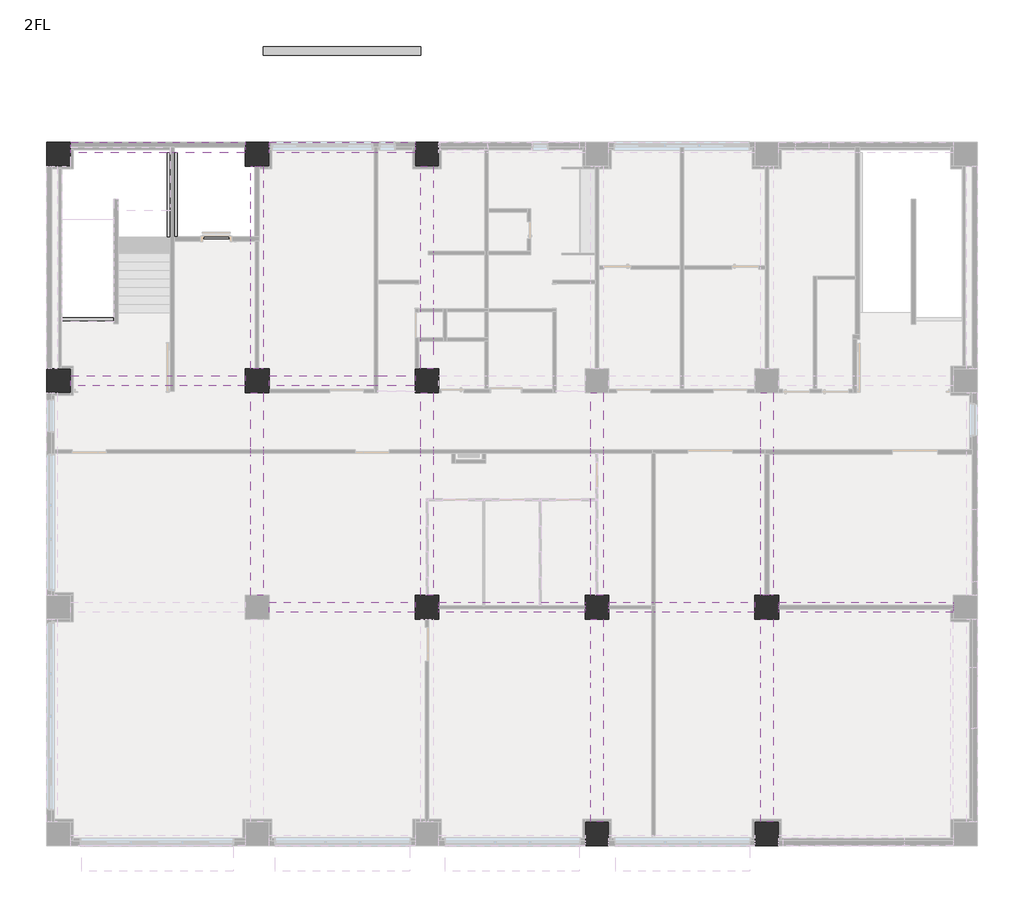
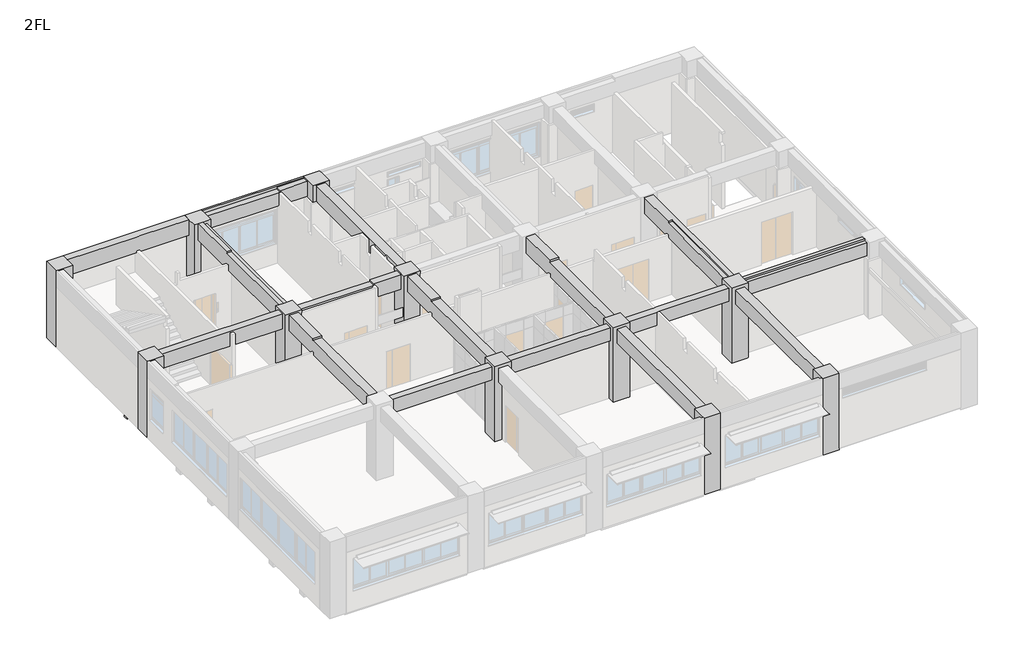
# One storey, part 6 of 7: 36 beams, 11 columns.
"""IFC4 building model written with IfcOpenShell, lengths in millimetres."""

from ifc_helpers import new_model, si_unit, frame, origin, place, context, project, spatial, polyline, outline, extrude, faceted_brep, element, save

model = new_model("IFC4")

# Units and contexts
model_context = context("Model", 3, world=origin())
ifc_project = project(units=[si_unit("LENGTHUNIT", "METRE", prefix="MILLI")], contexts=[model_context])

# Site, building, storey
site = spatial("IfcSite", under=ifc_project)
building = spatial("IfcBuilding", under=site)
storey = spatial("IfcBuildingStorey", under=building, Name="2FL", Elevation=4100.0)

# Beams
placement = place(None, origin())
element("IfcBeam", 1, ObjectType="営_RC梁 : 2-RG2 350*850", at=placement, inside=storey, context=model_context, shape_type="SweptSolid", body=[
    extrude(outline(polyline([(7420.0, 7825.0), (7420.0, 8175.0), (12580.0, 8175.0), (12580.0, 7825.0), (7420.0, 7825.0)])), frame((0.0, 0.0, 7250.0), z_axis=(0.0, 0.0, 1.0), x_axis=(1.0, 0.0, 0.0)), (0.0, 0.0, 1.0), 700.0),
])
element("IfcBeam", 2, ObjectType="営_RC梁 : 2-RG2 350*850", at=placement, inside=storey, context=model_context, shape_type="Brep", body=[
    faceted_brep([(13420.0, 7825.0, 7250.0), (18580.0, 7825.0, 7250.0), (18580.0, 7825.0, 7950.0), (13420.0, 7825.0, 7950.0), (13420.0, 7940.0, 7250.0), (13420.0, 8060.0, 7250.0), (13420.0, 8175.0, 7250.0), (18580.0, 8175.0, 7250.0), (18580.0, 8060.0, 7250.0), (18580.0, 7940.0, 7250.0), (13420.0, 8175.0, 7950.0), (18580.0, 8175.0, 7950.0)], [[[0, 1, 2, 3]], [[0, 4, 5, 6, 7, 8, 9, 1]], [[7, 6, 10, 11]], [[6, 5, 4, 0, 3, 10]], [[1, 9, 8, 7, 11, 2]], [[3, 2, 11, 10]]]),
])
element("IfcBeam", 3, ObjectType="営_RC梁 : 2-RG2 350*850", at=placement, inside=storey, context=model_context, shape_type="Brep", body=[
    faceted_brep([(19420.0, 7825.0, 7250.0), (20940.0, 7825.0, 7250.0), (21060.0, 7825.0, 7250.0), (24580.0, 7825.0, 7250.0), (24580.0, 7825.0, 7950.0), (21060.0, 7825.0, 7950.0), (20940.0, 7825.0, 7950.0), (19420.0, 7825.0, 7950.0), (19420.0, 7940.0, 7250.0), (19420.0, 8060.0, 7250.0), (19420.0, 8175.0, 7250.0), (20940.0, 8175.0, 7250.0), (21060.0, 8175.0, 7250.0), (24580.0, 8175.0, 7250.0), (19420.0, 8175.0, 7950.0), (20940.0, 8175.0, 7950.0), (21060.0, 8175.0, 7950.0), (24580.0, 8175.0, 7950.0)], [[[0, 1, 2, 3, 4, 5, 6, 7]], [[0, 8, 9, 10, 11, 12, 13, 3, 2, 1]], [[13, 12, 11, 10, 14, 15, 16, 17]], [[10, 9, 8, 0, 7, 14]], [[3, 13, 17, 4]], [[7, 6, 5, 4, 17, 16, 15, 14]]]),
])
element("IfcBeam", 4, ObjectType="営_RC梁 : 2-RG2 350*850", at=placement, inside=storey, context=model_context, shape_type="Brep", body=[
    faceted_brep([(25420.0, 7825.0, 7250.0), (31580.0, 7825.0, 7250.0), (31580.0, 7825.0, 7950.0), (25420.0, 7825.0, 7950.0), (25420.0, 7925.0, 7250.0), (25420.0, 8075.0, 7250.0), (25420.0, 8175.0, 7250.0), (31580.0, 8175.0, 7250.0), (31580.0, 8075.0, 7250.0), (31580.0, 7925.0, 7250.0), (25420.0, 8175.0, 8040.0), (31580.0, 8175.0, 8040.0), (25420.0, 8000.0, 7950.0), (25420.0, 8000.0, 8040.0), (31580.0, 8000.0, 8040.0), (31580.0, 8000.0, 7950.0)], [[[0, 1, 2, 3]], [[0, 4, 5, 6, 7, 8, 9, 1]], [[7, 6, 10, 11]], [[6, 5, 4, 0, 3, 12, 13, 10]], [[1, 9, 8, 7, 11, 14, 15, 2]], [[15, 12, 3, 2]], [[12, 15, 14, 13]], [[11, 10, 13, 14]]]),
])
element("IfcBeam", 5, ObjectType="営_RC梁 : 2-RG2 350*850", at=placement, inside=storey, context=model_context, shape_type="Brep", body=[
    faceted_brep([(420.0, 15825.0, 7250.0), (6580.0, 15825.0, 7250.0), (6580.0, 15825.0, 8040.0), (420.0, 15825.0, 8040.0), (6580.0, 16175.0, 7250.0), (420.0, 16175.0, 7250.0), (420.0, 16175.0, 8040.0), (3825.0, 16175.0, 8040.0), (4175.0, 16175.0, 8040.0), (6580.0, 16175.0, 8040.0)], [[[0, 1, 2, 3]], [[4, 1, 0, 5]], [[4, 5, 6, 7, 8, 9]], [[1, 4, 9, 2]], [[5, 0, 3, 6]], [[3, 2, 9, 8, 7, 6]]]),
])
element("IfcBeam", 6, ObjectType="営_RC梁 : 2-RG2 350*850", at=placement, inside=storey, context=model_context, shape_type="Brep", body=[
    faceted_brep([(7420.0, 15825.0, 7250.0), (11140.0, 15825.0, 7250.0), (11260.0, 15825.0, 7250.0), (12580.0, 15825.0, 7250.0), (12580.0, 15825.0, 8040.0), (11200.0, 15825.0, 8040.0), (11200.0, 15825.0, 7950.0), (11140.0, 15825.0, 7950.0), (7420.0, 15825.0, 7950.0), (7420.0, 16175.0, 7250.0), (11140.0, 16175.0, 7250.0), (11260.0, 16175.0, 7250.0), (12580.0, 16175.0, 7250.0), (7420.0, 16175.0, 7950.0), (11140.0, 16175.0, 7950.0), (11200.0, 16175.0, 7950.0), (11200.0, 16175.0, 8040.0), (12580.0, 16175.0, 8040.0)], [[[0, 1, 2, 3, 4, 5, 6, 7, 8]], [[0, 9, 10, 11, 12, 3, 2, 1]], [[12, 11, 10, 9, 13, 14, 15, 16, 17]], [[9, 0, 8, 13]], [[3, 12, 17, 4]], [[5, 4, 17, 16]], [[6, 15, 14, 13, 8, 7]], [[15, 6, 5, 16]]]),
])
element("IfcBeam", 7, ObjectType="営_RC梁 : 2-RG1 350*850", at=placement, inside=storey, context=model_context, shape_type="Brep", body=[
    faceted_brep([(6580.0, 24050.0, 8100.0), (6580.0, 24050.0, 7250.0), (6580.0, 24250.0, 7250.0), (6580.0, 24420.0, 7250.0), (6580.0, 24420.0, 8100.0), (420.0, 24050.0, 8100.0), (420.0, 24420.0, 8100.0), (420.0, 24420.0, 7250.0), (420.0, 24250.0, 7250.0), (420.0, 24050.0, 7250.0), (4175.0, 24050.0, 8100.0), (3825.0, 24050.0, 8100.0), (3925.0, 24050.0, 7250.0), (4075.0, 24050.0, 7250.0)], [[[0, 1, 2, 3, 4]], [[5, 6, 7, 8, 9]], [[1, 0, 10, 11, 5, 9, 12, 13]], [[3, 2, 1, 13, 12, 9, 8, 7]], [[4, 3, 7, 6]], [[0, 4, 6, 5, 11, 10]]]),
])
element("IfcBeam", 8, ObjectType="営_RC梁 : 2-RG1 350*850", at=placement, inside=storey, context=model_context, shape_type="Brep", body=[
    faceted_brep([(12580.0, 24050.0, 7250.0), (12580.0, 24250.0, 7250.0), (12580.0, 24420.0, 7250.0), (12580.0, 24420.0, 8100.0), (12580.0, 24335.0, 8100.0), (12580.0, 24335.0, 8040.0), (12580.0, 24050.0, 8040.0), (7420.0, 24420.0, 8100.0), (7420.0, 24420.0, 7250.0), (7420.0, 24250.0, 7250.0), (7420.0, 24050.0, 7250.0), (7420.0, 24050.0, 7950.0), (7420.0, 24335.0, 7950.0), (7420.0, 24335.0, 8100.0), (11140.0, 24050.0, 7250.0), (11260.0, 24050.0, 7250.0), (11200.0, 24050.0, 8040.0), (11200.0, 24050.0, 7950.0), (11140.0, 24050.0, 7950.0), (11200.0, 24335.0, 8100.0), (11200.0, 24335.0, 8040.0), (11200.0, 24335.0, 7950.0)], [[[0, 1, 2, 3, 4, 5, 6]], [[7, 8, 9, 10, 11, 12, 13]], [[10, 14, 15, 0, 6, 16, 17, 18, 11]], [[2, 1, 0, 15, 14, 10, 9, 8]], [[3, 2, 8, 7]], [[3, 7, 13, 19, 4]], [[5, 20, 16, 6]], [[20, 5, 4, 19, 13, 12, 21]], [[17, 21, 12, 11, 18]], [[20, 21, 17, 16]]]),
])
element("IfcBeam", 9, ObjectType="営_RC梁 : 2-4G12 450*900", at=placement, inside=storey, context=model_context, shape_type="Brep", body=[
    faceted_brep([(7225.0, 8420.0, 7200.0), (7225.0, 13440.0, 7200.0), (7225.0, 13560.0, 7200.0), (7225.0, 15580.0, 7200.0), (7225.0, 15580.0, 8040.0), (7225.0, 13675.0, 8040.0), (7225.0, 13500.0, 8040.0), (7225.0, 13500.0, 7950.0), (7225.0, 13325.0, 7950.0), (7225.0, 10925.0, 7950.0), (7225.0, 10575.0, 7950.0), (7225.0, 8420.0, 7950.0), (6775.0, 8420.0, 7200.0), (6775.0, 13440.0, 7200.0), (6775.0, 13560.0, 7200.0), (6775.0, 15580.0, 7200.0), (6775.0, 8420.0, 7950.0), (6775.0, 10575.0, 7950.0), (6775.0, 10925.0, 7950.0), (6775.0, 13325.0, 7950.0), (6775.0, 13500.0, 7950.0), (6775.0, 13500.0, 8040.0), (6775.0, 13675.0, 8040.0), (6775.0, 15580.0, 8040.0)], [[[0, 1, 2, 3, 4, 5, 6, 7, 8, 9, 10, 11]], [[0, 12, 13, 14, 15, 3, 2, 1]], [[15, 14, 13, 12, 16, 17, 18, 19, 20, 21, 22, 23]], [[12, 0, 11, 16]], [[3, 15, 23, 4]], [[7, 20, 19, 18, 17, 16, 11, 10, 9, 8]], [[20, 7, 6, 21]], [[6, 5, 4, 23, 22, 21]]]),
])
element("IfcBeam", 10, ObjectType="営_RC梁 : 2-4G12 450*900", at=placement, inside=storey, context=model_context, shape_type="Brep", body=[
    faceted_brep([(7225.0, 16420.0, 7200.0), (7225.0, 23580.0, 7200.0), (7225.0, 23580.0, 7950.0), (7225.0, 21515.0, 7950.0), (7225.0, 21165.0, 7950.0), (7225.0, 18845.0, 7950.0), (7225.0, 18495.0, 7950.0), (7225.0, 16420.0, 7950.0), (7060.0, 16420.0, 7200.0), (6940.0, 16420.0, 7200.0), (6775.0, 16420.0, 7200.0), (6775.0, 20925.0, 7200.0), (6775.0, 21075.0, 7200.0), (6775.0, 23580.0, 7200.0), (6925.0, 23580.0, 7200.0), (7075.0, 23580.0, 7200.0), (6775.0, 23580.0, 8100.0), (6775.0, 16420.0, 8040.0), (6775.0, 20825.0, 8040.0), (6775.0, 21075.0, 8040.0), (6775.0, 21075.0, 8100.0), (7000.0, 21075.0, 8100.0), (7000.0, 23580.0, 8100.0), (7000.0, 16420.0, 7950.0), (7000.0, 16420.0, 8040.0), (7000.0, 23580.0, 7950.0), (7000.0, 21075.0, 8040.0)], [[[0, 1, 2, 3, 4, 5, 6, 7]], [[0, 8, 9, 10, 11, 12, 13, 14, 15, 1]], [[16, 13, 12, 11, 10, 17, 18, 19, 20]], [[16, 20, 21, 22]], [[10, 9, 8, 0, 7, 23, 24, 17]], [[1, 15, 14, 13, 16, 22, 25, 2]], [[26, 19, 18, 17, 24]], [[19, 26, 21, 20]], [[25, 23, 7, 6, 5, 4, 3, 2]], [[23, 25, 22, 21, 26, 24]]]),
])
element("IfcBeam", 11, ObjectType="営_RC梁 : 2-4G12 450*900", at=placement, inside=storey, context=model_context, shape_type="Brep", body=[
    faceted_brep([(13225.0, 8420.0, 7200.0), (13225.0, 13440.0, 7200.0), (13225.0, 13560.0, 7200.0), (13225.0, 15580.0, 7200.0), (13225.0, 15580.0, 8040.0), (13225.0, 13675.0, 8040.0), (13225.0, 13500.0, 8040.0), (13225.0, 13500.0, 7950.0), (13225.0, 13325.0, 7950.0), (13225.0, 10925.0, 7950.0), (13225.0, 10575.0, 7950.0), (13225.0, 8420.0, 7950.0), (12775.0, 8420.0, 7200.0), (12775.0, 13440.0, 7200.0), (12775.0, 13560.0, 7200.0), (12775.0, 15580.0, 7200.0), (12775.0, 8420.0, 7950.0), (12775.0, 10575.0, 7950.0), (12775.0, 10925.0, 7950.0), (12775.0, 13325.0, 7950.0), (12775.0, 13500.0, 7950.0), (12775.0, 13500.0, 8040.0), (12775.0, 13675.0, 8040.0), (12775.0, 15580.0, 8040.0)], [[[0, 1, 2, 3, 4, 5, 6, 7, 8, 9, 10, 11]], [[0, 12, 13, 14, 15, 3, 2, 1]], [[15, 14, 13, 12, 16, 17, 18, 19, 20, 21, 22, 23]], [[12, 0, 11, 16]], [[3, 15, 23, 4]], [[7, 20, 19, 18, 17, 16, 11, 10, 9, 8]], [[20, 7, 6, 21]], [[6, 5, 4, 23, 22, 21]]]),
])
element("IfcBeam", 12, ObjectType="営_RC梁 : 2-4G12 450*900", at=placement, inside=storey, context=model_context, shape_type="Brep", body=[
    faceted_brep([(13225.0, 16420.0, 7200.0), (13225.0, 17400.0, 7200.0), (13225.0, 17520.0, 7200.0), (13225.0, 18430.0, 7200.0), (13225.0, 18550.0, 7200.0), (13225.0, 20450.0, 7200.0), (13225.0, 20570.0, 7200.0), (13225.0, 23580.0, 7200.0), (13225.0, 23580.0, 8040.0), (13225.0, 21515.0, 8040.0), (13225.0, 21165.0, 8040.0), (13225.0, 18845.0, 8040.0), (13225.0, 18495.0, 8040.0), (13225.0, 16420.0, 8040.0), (12775.0, 16420.0, 7200.0), (12775.0, 17400.0, 7200.0), (12775.0, 17520.0, 7200.0), (12775.0, 18430.0, 7200.0), (12775.0, 18550.0, 7200.0), (12775.0, 23580.0, 7200.0), (12775.0, 16420.0, 8040.0), (12775.0, 18495.0, 8040.0), (12775.0, 18845.0, 8040.0), (12775.0, 21165.0, 8040.0), (12775.0, 21515.0, 8040.0), (12775.0, 23580.0, 8040.0)], [[[0, 1, 2, 3, 4, 5, 6, 7, 8, 9, 10, 11, 12, 13]], [[0, 14, 15, 16, 17, 18, 19, 7, 6, 5, 4, 3, 2, 1]], [[19, 18, 17, 16, 15, 14, 20, 21, 22, 23, 24, 25]], [[14, 0, 13, 20]], [[7, 19, 25, 8]], [[13, 12, 11, 10, 9, 8, 25, 24, 23, 22, 21, 20]]]),
])
element("IfcBeam", 13, ObjectType="営_RC梁 : 2-4G12 450*900", at=placement, inside=storey, context=model_context, shape_type="Brep", body=[
    faceted_brep([(19225.0, 420.0, 7200.0), (19225.0, 7580.0, 7200.0), (19225.0, 7580.0, 7950.0), (19225.0, 5505.0, 7950.0), (19225.0, 5155.0, 7950.0), (19225.0, 2835.0, 7950.0), (19225.0, 2485.0, 7950.0), (19225.0, 420.0, 7950.0), (18775.0, 420.0, 7200.0), (18775.0, 7580.0, 7200.0), (18775.0, 420.0, 7950.0), (18775.0, 2485.0, 7950.0), (18775.0, 2835.0, 7950.0), (18775.0, 5155.0, 7950.0), (18775.0, 5505.0, 7950.0), (18775.0, 7580.0, 7950.0)], [[[0, 1, 2, 3, 4, 5, 6, 7]], [[0, 8, 9, 1]], [[9, 8, 10, 11, 12, 13, 14, 15]], [[8, 0, 7, 10]], [[1, 9, 15, 2]], [[7, 6, 5, 4, 3, 2, 15, 14, 13, 12, 11, 10]]]),
])
element("IfcBeam", 14, ObjectType="営_RC梁 : 2-4G12 450*900", at=placement, inside=storey, context=model_context, shape_type="Brep", body=[
    faceted_brep([(19225.0, 8420.0, 7200.0), (19225.0, 13440.0, 7200.0), (19225.0, 13560.0, 7200.0), (19225.0, 15580.0, 7200.0), (19225.0, 15580.0, 8040.0), (19225.0, 13675.0, 8040.0), (19225.0, 13500.0, 8040.0), (19225.0, 13500.0, 7950.0), (19225.0, 13325.0, 7950.0), (19225.0, 10925.0, 7950.0), (19225.0, 10575.0, 7950.0), (19225.0, 8420.0, 7950.0), (18775.0, 8420.0, 7200.0), (18775.0, 13440.0, 7200.0), (18775.0, 13560.0, 7200.0), (18775.0, 15580.0, 7200.0), (18775.0, 8420.0, 7950.0), (18775.0, 10575.0, 7950.0), (18775.0, 10925.0, 7950.0), (18775.0, 13325.0, 7950.0), (18775.0, 13500.0, 7950.0), (18775.0, 13500.0, 8040.0), (18775.0, 13675.0, 8040.0), (18775.0, 15580.0, 8040.0)], [[[0, 1, 2, 3, 4, 5, 6, 7, 8, 9, 10, 11]], [[0, 12, 13, 14, 15, 3, 2, 1]], [[15, 14, 13, 12, 16, 17, 18, 19, 20, 21, 22, 23]], [[12, 0, 11, 16]], [[3, 15, 23, 4]], [[7, 20, 19, 18, 17, 16, 11, 10, 9, 8]], [[20, 7, 6, 21]], [[6, 5, 4, 23, 22, 21]]]),
])
element("IfcBeam", 15, ObjectType="営_RC梁 : 2-4G12 450*900", at=placement, inside=storey, context=model_context, shape_type="Brep", body=[
    faceted_brep([(25225.0, 420.0, 7200.0), (25225.0, 7580.0, 7200.0), (25225.0, 7580.0, 7950.0), (25225.0, 5505.0, 7950.0), (25225.0, 5155.0, 7950.0), (25225.0, 2835.0, 7950.0), (25225.0, 2485.0, 7950.0), (25225.0, 420.0, 7950.0), (24775.0, 420.0, 7200.0), (24775.0, 7580.0, 7200.0), (24775.0, 420.0, 7950.0), (24775.0, 2485.0, 7950.0), (24775.0, 2835.0, 7950.0), (24775.0, 5155.0, 7950.0), (24775.0, 5505.0, 7950.0), (24775.0, 7580.0, 7950.0)], [[[0, 1, 2, 3, 4, 5, 6, 7]], [[0, 8, 9, 1]], [[9, 8, 10, 11, 12, 13, 14, 15]], [[8, 0, 7, 10]], [[1, 9, 15, 2]], [[7, 6, 5, 4, 3, 2, 15, 14, 13, 12, 11, 10]]]),
])
element("IfcBeam", 16, ObjectType="営_RC梁 : 2-4G12 450*900", at=placement, inside=storey, context=model_context, shape_type="Brep", body=[
    faceted_brep([(25225.0, 8420.0, 7200.0), (25225.0, 13410.0, 7200.0), (25225.0, 13560.0, 7200.0), (25225.0, 15580.0, 7200.0), (25225.0, 15580.0, 8040.0), (25225.0, 13675.0, 8040.0), (25225.0, 13325.0, 8040.0), (25225.0, 10925.0, 8040.0), (25225.0, 10575.0, 8040.0), (25225.0, 8420.0, 8040.0), (25075.0, 8420.0, 7200.0), (24925.0, 8420.0, 7200.0), (24775.0, 8420.0, 7200.0), (24775.0, 13440.0, 7200.0), (24775.0, 13560.0, 7200.0), (24775.0, 15580.0, 7200.0), (24775.0, 8420.0, 7950.0), (24775.0, 10575.0, 7950.0), (24775.0, 10925.0, 7950.0), (24775.0, 13325.0, 7950.0), (24775.0, 13500.0, 7950.0), (24775.0, 13500.0, 8040.0), (24775.0, 13675.0, 8040.0), (24775.0, 15580.0, 8040.0), (25000.0, 8420.0, 8040.0), (25000.0, 8420.0, 7950.0), (25000.0, 13500.0, 7950.0), (25000.0, 13500.0, 8040.0)], [[[0, 1, 2, 3, 4, 5, 6, 7, 8, 9]], [[0, 10, 11, 12, 13, 14, 15, 3, 2, 1]], [[15, 14, 13, 12, 16, 17, 18, 19, 20, 21, 22, 23]], [[12, 11, 10, 0, 9, 24, 25, 16]], [[3, 15, 23, 4]], [[25, 26, 20, 19, 18, 17, 16]], [[20, 26, 27, 21]], [[26, 25, 24, 27]], [[9, 8, 7, 6, 5, 4, 23, 22, 21, 27, 24]]]),
])
element("IfcBeam", 17, ObjectType="営_RC梁 : B5 300*700", at=placement, inside=storey, context=model_context, shape_type="Brep", body=[
    faceted_brep([(7225.0, 27500.0, 3800.0), (7225.0, 27500.0, 3438.0834712), (7225.0, 27500.0, 3287.804878), (7225.0, 27500.0, 3100.0), (12775.0, 27500.0, 3100.0), (12775.0, 27500.0, 3287.804878), (12775.0, 27500.0, 3438.0834712), (12775.0, 27500.0, 3800.0), (7225.0, 27800.0, 3100.0), (12775.0, 27800.0, 3100.0), (7225.0, 27800.0, 3800.0), (12775.0, 27800.0, 3800.0)], [[[0, 1, 2, 3, 4, 5, 6, 7]], [[3, 8, 9, 4]], [[8, 10, 11, 9]], [[10, 0, 7, 11]], [[3, 2, 1, 0, 10, 8]], [[7, 6, 5, 4, 9, 11]]]),
])
element("IfcBeam", 18, ObjectType="営_RC梁 : B2 350*750", at=placement, inside=storey, context=model_context, shape_type="SweptSolid", body=[
    extrude(outline(polyline([(25225.0, 2489.0), (25225.0, 2839.0), (32050.0, 2839.0), (32050.0, 2489.0), (25225.0, 2489.0)])), frame((0.0, 0.0, 3250.0), z_axis=(0.0, 0.0, 1.0), x_axis=(1.0, 0.0, 0.0)), (0.0, 0.0, 1.0), 690.0),
])
element("IfcBeam", 19, ObjectType="営_RC梁 : B2 350*750", at=placement, inside=storey, context=model_context, shape_type="SweptSolid", body=[
    extrude(outline(polyline([(25225.0, 5155.0), (25225.0, 5505.0), (32050.0, 5505.0), (32050.0, 5155.0), (25225.0, 5155.0)])), frame((0.0, 0.0, 3250.0), z_axis=(0.0, 0.0, 1.0), x_axis=(1.0, 0.0, 0.0)), (0.0, 0.0, 1.0), 690.0),
])
element("IfcBeam", 20, ObjectType="営_RC梁 : B2 350*750", at=placement, inside=storey, context=model_context, shape_type="SweptSolid", body=[
    extrude(outline(polyline([(25225.0, 10575.0), (25225.0, 10925.0), (32050.0, 10925.0), (32050.0, 10575.0), (25225.0, 10575.0)])), frame((0.0, 0.0, 3250.0), z_axis=(0.0, 0.0, 1.0), x_axis=(1.0, 0.0, 0.0)), (0.0, 0.0, 1.0), 690.0),
])
element("IfcBeam", 21, ObjectType="営_RC梁 : B2 350*750", at=placement, inside=storey, context=model_context, shape_type="Brep", body=[
    faceted_brep([(25225.0, 13325.0, 3250.0), (32050.0, 13325.0, 3250.0), (32050.0, 13325.0, 3940.0), (25225.0, 13325.0, 3940.0), (25225.0, 13405.0, 3250.0), (25225.0, 13555.0, 3250.0), (25225.0, 13675.0, 3250.0), (32050.0, 13675.0, 3250.0), (32050.0, 13555.0, 3250.0), (32050.0, 13405.0, 3250.0), (25225.0, 13675.0, 3940.0), (32050.0, 13675.0, 3940.0)], [[[0, 1, 2, 3]], [[0, 4, 5, 6, 7, 8, 9, 1]], [[7, 6, 10, 11]], [[6, 5, 4, 0, 3, 10]], [[1, 9, 8, 7, 11, 2]], [[3, 2, 11, 10]]]),
])
element("IfcBeam", 22, ObjectType="営_RC梁 : B2 350*750", at=placement, inside=storey, context=model_context, shape_type="Brep", body=[
    faceted_brep([(19225.0, 2485.0, 3250.0), (21925.0, 2485.0, 3250.0), (22075.0, 2485.0, 3250.0), (24775.0, 2485.0, 3250.0), (24775.0, 2485.0, 3940.0), (22075.0, 2485.0, 3940.0), (21925.0, 2485.0, 3940.0), (21200.0, 2485.0, 3940.0), (21200.0, 2485.0, 3850.0), (19225.0, 2485.0, 3850.0), (19225.0, 2835.0, 3250.0), (21925.0, 2835.0, 3250.0), (22075.0, 2835.0, 3250.0), (24775.0, 2835.0, 3250.0), (24775.0, 2718.3416571, 3250.0), (19225.0, 2835.0, 3850.0), (21200.0, 2835.0, 3850.0), (21200.0, 2835.0, 3940.0), (21925.0, 2835.0, 3940.0), (22075.0, 2835.0, 3940.0), (24775.0, 2835.0, 3940.0)], [[[0, 1, 2, 3, 4, 5, 6, 7, 8, 9]], [[0, 10, 11, 12, 13, 14, 3, 2, 1]], [[13, 12, 11, 10, 15, 16, 17, 18, 19, 20]], [[3, 14, 13, 20, 4]], [[10, 0, 9, 15]], [[8, 16, 15, 9]], [[16, 8, 7, 17]], [[7, 6, 5, 4, 20, 19, 18, 17]]]),
])
element("IfcBeam", 23, ObjectType="営_RC梁 : B2 350*750", at=placement, inside=storey, context=model_context, shape_type="Brep", body=[
    faceted_brep([(19225.0, 5155.0, 3250.0), (21925.0, 5155.0, 3250.0), (22075.0, 5155.0, 3250.0), (24775.0, 5155.0, 3250.0), (24775.0, 5155.0, 3940.0), (22075.0, 5155.0, 3940.0), (21925.0, 5155.0, 3940.0), (21200.0, 5155.0, 3940.0), (21200.0, 5155.0, 3850.0), (19225.0, 5155.0, 3850.0), (19225.0, 5505.0, 3250.0), (21925.0, 5505.0, 3250.0), (22075.0, 5505.0, 3250.0), (24775.0, 5505.0, 3250.0), (19225.0, 5505.0, 3850.0), (21200.0, 5505.0, 3850.0), (21200.0, 5505.0, 3940.0), (21925.0, 5505.0, 3940.0), (22075.0, 5505.0, 3940.0), (24775.0, 5505.0, 3940.0)], [[[0, 1, 2, 3, 4, 5, 6, 7, 8, 9]], [[0, 10, 11, 12, 13, 3, 2, 1]], [[13, 12, 11, 10, 14, 15, 16, 17, 18, 19]], [[10, 0, 9, 14]], [[3, 13, 19, 4]], [[8, 15, 14, 9]], [[15, 8, 7, 16]], [[7, 6, 5, 4, 19, 18, 17, 16]]]),
])
element("IfcBeam", 24, ObjectType="営_RC梁 : B2 350*750", at=placement, inside=storey, context=model_context, shape_type="Brep", body=[
    faceted_brep([(19225.0, 10575.0, 3250.0), (21920.0, 10575.0, 3250.0), (22040.0, 10575.0, 3250.0), (24775.0, 10575.0, 3250.0), (24775.0, 10575.0, 3940.0), (21200.0, 10575.0, 3940.0), (21200.0, 10575.0, 3850.0), (19225.0, 10575.0, 3850.0), (19225.0, 10925.0, 3250.0), (21920.0, 10925.0, 3250.0), (22040.0, 10925.0, 3250.0), (24775.0, 10925.0, 3250.0), (19225.0, 10925.0, 3850.0), (21200.0, 10925.0, 3850.0), (21200.0, 10925.0, 3940.0), (24775.0, 10925.0, 3940.0)], [[[0, 1, 2, 3, 4, 5, 6, 7]], [[0, 8, 9, 10, 11, 3, 2, 1]], [[11, 10, 9, 8, 12, 13, 14, 15]], [[8, 0, 7, 12]], [[3, 11, 15, 4]], [[6, 13, 12, 7]], [[13, 6, 5, 14]], [[5, 4, 15, 14]]]),
])
element("IfcBeam", 25, ObjectType="営_RC梁 : B2 350*750", at=placement, inside=storey, context=model_context, shape_type="Brep", body=[
    faceted_brep([(19225.0, 13325.0, 3250.0), (21920.0, 13325.0, 3250.0), (22040.0, 13325.0, 3250.0), (24775.0, 13325.0, 3250.0), (24775.0, 13325.0, 3940.0), (21200.0, 13325.0, 3940.0), (21200.0, 13325.0, 3850.0), (19225.0, 13325.0, 3850.0), (19225.0, 13440.0, 3250.0), (19225.0, 13560.0, 3250.0), (19225.0, 13675.0, 3250.0), (24775.0, 13675.0, 3250.0), (24775.0, 13560.0, 3250.0), (24775.0, 13440.0, 3250.0), (19225.0, 13675.0, 3940.0), (24775.0, 13675.0, 3940.0), (19225.0, 13500.0, 3850.0), (19225.0, 13500.0, 3940.0), (21200.0, 13500.0, 3850.0), (21200.0, 13500.0, 3940.0), (20950.0, 13500.0, 3940.0)], [[[0, 1, 2, 3, 4, 5, 6, 7]], [[0, 8, 9, 10, 11, 12, 13, 3, 2, 1]], [[11, 10, 14, 15]], [[10, 9, 8, 0, 7, 16, 17, 14]], [[3, 13, 12, 11, 15, 4]], [[6, 18, 16, 7]], [[16, 18, 19, 20, 17]], [[18, 6, 5, 19]], [[5, 4, 15, 14, 17, 20, 19]]]),
])
element("IfcBeam", 26, ObjectType="営_RC梁 : B1 350*750", at=placement, inside=storey, context=model_context, shape_type="SweptSolid", body=[
    extrude(outline(polyline([(13225.0, 5155.0), (13225.0, 5505.0), (18775.0, 5505.0), (18775.0, 5155.0), (13225.0, 5155.0)])), frame((0.0, 0.0, 3250.0), z_axis=(0.0, 0.0, 1.0), x_axis=(1.0, 0.0, 0.0)), (0.0, 0.0, 1.0), 600.0),
])
element("IfcBeam", 27, ObjectType="営_RC梁 : B1 350*750", at=placement, inside=storey, context=model_context, shape_type="SweptSolid", body=[
    extrude(outline(polyline([(13225.0, 2485.0), (13225.0, 2835.0), (18775.0, 2835.0), (18775.0, 2485.0), (13225.0, 2485.0)])), frame((0.0, 0.0, 3250.0), z_axis=(0.0, 0.0, 1.0), x_axis=(1.0, 0.0, 0.0)), (0.0, 0.0, 1.0), 600.0),
])
element("IfcBeam", 28, ObjectType="営_RC梁 : B1 350*750", at=placement, inside=storey, context=model_context, shape_type="SweptSolid", body=[
    extrude(outline(polyline([(7225.0, 10575.0), (7225.0, 10925.0), (12775.0, 10925.0), (12775.0, 10575.0), (7225.0, 10575.0)])), frame((0.0, 0.0, 3250.0), z_axis=(0.0, 0.0, 1.0), x_axis=(1.0, 0.0, 0.0)), (0.0, 0.0, 1.0), 600.0),
])
element("IfcBeam", 29, ObjectType="営_RC梁 : B1 350*750", at=placement, inside=storey, context=model_context, shape_type="Brep", body=[
    faceted_brep([(7225.0, 13325.0, 3250.0), (12775.0, 13325.0, 3250.0), (12775.0, 13325.0, 3850.0), (7225.0, 13325.0, 3850.0), (7225.0, 13440.0, 3250.0), (7225.0, 13560.0, 3250.0), (7225.0, 13675.0, 3250.0), (12775.0, 13675.0, 3250.0), (12775.0, 13560.0, 3250.0), (12775.0, 13440.0, 3250.0), (7225.0, 13675.0, 3940.0), (12775.0, 13675.0, 3940.0), (7225.0, 13500.0, 3850.0), (7225.0, 13500.0, 3940.0), (12775.0, 13500.0, 3940.0), (12775.0, 13500.0, 3850.0)], [[[0, 1, 2, 3]], [[0, 4, 5, 6, 7, 8, 9, 1]], [[7, 6, 10, 11]], [[6, 5, 4, 0, 3, 12, 13, 10]], [[1, 9, 8, 7, 11, 14, 15, 2]], [[15, 12, 3, 2]], [[12, 15, 14, 13]], [[11, 10, 13, 14]]]),
])
element("IfcBeam", 30, ObjectType="営_RC梁 : B1 350*750", at=placement, inside=storey, context=model_context, shape_type="SweptSolid", body=[
    extrude(outline(polyline([(13225.0, 10575.0), (13225.0, 10925.0), (18775.0, 10925.0), (18775.0, 10575.0), (13225.0, 10575.0)])), frame((0.0, 0.0, 3250.0), z_axis=(0.0, 0.0, 1.0), x_axis=(1.0, 0.0, 0.0)), (0.0, 0.0, 1.0), 600.0),
])
element("IfcBeam", 31, ObjectType="営_RC梁 : B1 350*750", at=placement, inside=storey, context=model_context, shape_type="Brep", body=[
    faceted_brep([(13225.0, 13325.0, 3250.0), (13870.0, 13325.0, 3250.0), (13990.0, 13325.0, 3250.0), (14950.0, 13325.0, 3250.0), (15070.0, 13325.0, 3250.0), (18775.0, 13325.0, 3250.0), (18775.0, 13325.0, 3850.0), (15070.0, 13325.0, 3850.0), (14950.0, 13325.0, 3850.0), (13990.0, 13325.0, 3850.0), (13870.0, 13325.0, 3850.0), (13225.0, 13325.0, 3850.0), (13225.0, 13440.0, 3250.0), (13225.0, 13560.0, 3250.0), (13225.0, 13675.0, 3250.0), (18775.0, 13675.0, 3250.0), (18775.0, 13560.0, 3250.0), (18775.0, 13440.0, 3250.0), (13225.0, 13675.0, 3940.0), (18775.0, 13675.0, 3940.0), (13225.0, 13500.0, 3850.0), (13225.0, 13500.0, 3940.0), (18775.0, 13500.0, 3940.0), (18775.0, 13500.0, 3850.0)], [[[0, 1, 2, 3, 4, 5, 6, 7, 8, 9, 10, 11]], [[0, 12, 13, 14, 15, 16, 17, 5, 4, 3, 2, 1]], [[15, 14, 18, 19]], [[14, 13, 12, 0, 11, 20, 21, 18]], [[5, 17, 16, 15, 19, 22, 23, 6]], [[23, 20, 11, 10, 9, 8, 7, 6]], [[20, 23, 22, 21]], [[19, 18, 21, 22]]]),
])
element("IfcBeam", 32, ObjectType="営_RC梁 : B1 350*750", at=placement, inside=storey, context=model_context, shape_type="Brep", body=[
    faceted_brep([(7225.0, 18495.0, 3250.0), (11140.0, 18495.0, 3250.0), (11260.0, 18495.0, 3250.0), (12580.0, 18495.0, 3250.0), (12700.0, 18495.0, 3250.0), (12775.0, 18495.0, 3250.0), (12775.0, 18495.0, 3850.0), (12775.0, 18495.0, 3940.0), (11200.0, 18495.0, 3940.0), (11200.0, 18495.0, 3850.0), (11140.0, 18495.0, 3850.0), (7225.0, 18495.0, 3850.0), (7225.0, 18845.0, 3250.0), (11140.0, 18845.0, 3250.0), (11260.0, 18845.0, 3250.0), (12580.0, 18845.0, 3250.0), (12700.0, 18845.0, 3250.0), (12775.0, 18845.0, 3250.0), (12775.0, 18550.0, 3250.0), (7225.0, 18845.0, 3850.0), (11140.0, 18845.0, 3850.0), (11200.0, 18845.0, 3850.0), (11200.0, 18845.0, 3940.0), (12775.0, 18845.0, 3940.0)], [[[0, 1, 2, 3, 4, 5, 6, 7, 8, 9, 10, 11]], [[0, 12, 13, 14, 15, 16, 17, 18, 5, 4, 3, 2, 1]], [[17, 16, 15, 14, 13, 12, 19, 20, 21, 22, 23]], [[12, 0, 11, 19]], [[5, 18, 17, 23, 7, 6]], [[9, 21, 20, 19, 11, 10]], [[21, 9, 8, 22]], [[8, 7, 23, 22]]]),
])
element("IfcBeam", 33, ObjectType="営_RC梁 : B1 350*750", at=placement, inside=storey, context=model_context, shape_type="Brep", body=[
    faceted_brep([(7225.0, 21165.0, 3250.0), (11140.0, 21165.0, 3250.0), (11260.0, 21165.0, 3250.0), (12775.0, 21165.0, 3250.0), (12775.0, 21165.0, 3940.0), (11200.0, 21165.0, 3940.0), (11200.0, 21165.0, 3850.0), (11140.0, 21165.0, 3850.0), (7225.0, 21165.0, 3850.0), (7225.0, 21515.0, 3250.0), (11140.0, 21515.0, 3250.0), (11260.0, 21515.0, 3250.0), (12775.0, 21515.0, 3250.0), (7225.0, 21515.0, 3850.0), (11140.0, 21515.0, 3850.0), (11200.0, 21515.0, 3850.0), (11200.0, 21515.0, 3940.0), (12775.0, 21515.0, 3940.0)], [[[0, 1, 2, 3, 4, 5, 6, 7, 8]], [[0, 9, 10, 11, 12, 3, 2, 1]], [[12, 11, 10, 9, 13, 14, 15, 16, 17]], [[9, 0, 8, 13]], [[3, 12, 17, 4]], [[6, 15, 14, 13, 8, 7]], [[15, 6, 5, 16]], [[5, 4, 17, 16]]]),
])
element("IfcBeam", 34, ObjectType="営_RC梁 : B3 250*600", at=placement, inside=storey, context=model_context, shape_type="Brep", body=[
    faceted_brep([(4306.3, 21075.0, 4000.0), (4306.3, 21075.0, 3850.0), (4306.3, 21075.0, 3400.0), (4306.3, 20925.0, 3400.0), (4306.3, 20825.0, 3400.0), (4306.3, 20825.0, 3940.0), (4306.3, 21000.0, 3940.0), (4306.3, 21000.0, 4000.0), (6775.0, 20825.0, 3400.0), (6775.0, 20825.0, 3940.0), (6775.0, 21075.0, 3400.0), (6775.0, 20925.0, 3400.0), (6775.0, 21075.0, 4000.0), (6775.0, 21000.0, 4000.0), (6775.0, 21000.0, 3940.0)], [[[0, 1, 2, 3, 4, 5, 6, 7]], [[4, 8, 9, 5]], [[4, 3, 2, 10, 11, 8]], [[2, 1, 0, 12, 10]], [[12, 0, 7, 13]], [[8, 11, 10, 12, 13, 14, 9]], [[14, 6, 5, 9]], [[6, 14, 13, 7]]]),
])
element("IfcBeam", 35, ObjectType="営_RC梁 : B4 350*750", at=placement, inside=storey, context=model_context, shape_type="Brep", body=[
    faceted_brep([(4175.0, 16175.0, 3250.0), (4175.0, 20925.0, 3250.0), (4175.0, 21075.0, 3250.0), (4175.0, 24050.0, 3250.0), (4175.0, 24050.0, 4000.0), (4175.0, 21000.0, 4000.0), (4175.0, 21000.0, 3940.0), (4175.0, 16175.0, 3940.0), (3825.0, 16175.0, 3250.0), (3825.0, 24050.0, 3250.0), (3925.0, 24050.0, 3250.0), (4075.0, 24050.0, 3250.0), (3825.0, 16175.0, 3940.0), (3825.0, 17975.0, 3940.0), (3825.0, 18225.0, 3940.0), (3825.0, 18400.0, 3940.0), (3825.0, 18400.0, 4000.0), (3825.0, 24050.0, 4000.0), (4000.0, 18400.0, 4000.0), (4000.0, 21000.0, 4000.0), (4000.0, 21000.0, 3940.0), (4000.0, 18400.0, 3940.0)], [[[0, 1, 2, 3, 4, 5, 6, 7]], [[0, 8, 9, 10, 11, 3, 2, 1]], [[9, 8, 12, 13, 14, 15, 16, 17]], [[4, 17, 16, 18, 19, 5]], [[8, 0, 7, 12]], [[4, 3, 11, 10, 9, 17]], [[20, 21, 15, 14, 13, 12, 7, 6]], [[20, 6, 5, 19]], [[21, 20, 19, 18]], [[15, 21, 18, 16]]]),
])
element("IfcBeam", 36, ObjectType="営_RC梁 : B3 250*600", at=placement, inside=storey, context=model_context, shape_type="Brep", body=[
    faceted_brep([(-50.0, 17975.0, 3400.0), (1725.0, 17975.0, 3400.0), (1875.0, 17975.0, 3400.0), (2095.0, 17975.0, 3400.0), (3825.0, 17975.0, 3400.0), (3825.0, 17975.0, 3940.0), (-50.0, 17975.0, 3940.0), (-50.0, 18225.0, 3400.0), (1945.0, 18225.0, 3400.0), (2095.0, 18225.0, 3400.0), (3825.0, 18225.0, 3400.0), (-50.0, 18225.0, 3940.0), (100.0, 18225.0, 3940.0), (100.0, 18225.0, 4000.0), (1945.0, 18225.0, 4000.0), (2095.0, 18225.0, 4000.0), (2095.0, 18225.0, 3940.0), (3825.0, 18225.0, 3940.0), (100.0, 18100.0, 4000.0), (1945.0, 18100.0, 4000.0), (1945.0, 18030.0, 4000.0), (1945.0, 18005.0, 4000.0), (2095.0, 18005.0, 4000.0), (2095.0, 18030.0, 4000.0), (1945.0, 18100.0, 3940.0), (100.0, 18100.0, 3940.0), (2095.0, 18005.0, 3940.0), (1945.0, 18005.0, 3940.0)], [[[0, 1, 2, 3, 4, 5, 6]], [[0, 7, 8, 9, 10, 4, 3, 2, 1]], [[10, 9, 8, 7, 11, 12, 13, 14, 15, 16, 17]], [[15, 14, 13, 18, 19, 20, 21, 22, 23]], [[7, 0, 6, 11]], [[4, 10, 17, 5]], [[24, 25, 12, 11, 6, 5, 17, 16, 26, 27]], [[12, 25, 18, 13]], [[25, 24, 19, 18]], [[24, 27, 21, 20, 19]], [[27, 26, 22, 21]], [[26, 16, 15, 23, 22]]]),
])

# Columns
element("IfcColumn", 37, ObjectType="営_RC柱_角 : 800*800", at=placement, inside=storey, context=model_context, shape_type="Brep", body=[
    faceted_brep([(19420.0, 420.0, 4000.0), (19420.0, -250.0, 4000.0), (19420.0, -420.0, 4000.0), (18580.0, -420.0, 4000.0), (18580.0, -250.0, 4000.0), (18580.0, 420.0, 4000.0), (19420.0, 420.0, 8100.0), (19420.0, -325.0, 8100.0), (19420.0, -420.0, 8100.0), (19420.0, -420.0, 7250.0), (19420.0, 420.0, 4080.0), (19420.0, 420.0, 4090.0), (19420.0, 420.0, 7950.0), (18580.0, -420.0, 8100.0), (18580.0, -420.0, 7250.0), (18580.0, -325.0, 8100.0), (18580.0, 420.0, 8100.0), (18580.0, 420.0, 7950.0), (18580.0, 420.0, 4090.0), (18580.0, 420.0, 4080.0)], [[[0, 1, 2, 3, 4, 5]], [[6, 7, 8, 9, 2, 1, 0, 10, 11, 12]], [[8, 13, 14, 3, 2, 9]], [[13, 15, 16, 17, 18, 19, 5, 4, 3, 14]], [[16, 6, 12, 11, 10, 0, 5, 19, 18, 17]], [[6, 16, 15, 13, 8, 7]]]),
])
element("IfcColumn", 38, ObjectType="営_RC柱_角 : 800*800", at=placement, inside=storey, context=model_context, shape_type="Brep", body=[
    faceted_brep([(25420.0, 420.0, 4000.0), (25420.0, -420.0, 4000.0), (24580.0, -420.0, 4000.0), (24580.0, -250.0, 4000.0), (24580.0, 420.0, 4000.0), (25420.0, 420.0, 8100.0), (25420.0, -325.0, 8100.0), (25420.0, -420.0, 8100.0), (25420.0, -420.0, 7250.0), (25420.0, -420.0, 4090.0), (25420.0, 420.0, 4090.0), (25420.0, 420.0, 7950.0), (24580.0, -420.0, 8100.0), (24580.0, -420.0, 7250.0), (24580.0, -325.0, 8100.0), (24580.0, 420.0, 8100.0), (24580.0, 420.0, 7950.0), (24580.0, 420.0, 4090.0)], [[[0, 1, 2, 3, 4]], [[5, 6, 7, 8, 9, 1, 0, 10, 11]], [[7, 12, 13, 2, 1, 9, 8]], [[12, 14, 15, 16, 17, 4, 3, 2, 13]], [[15, 5, 11, 10, 0, 4, 17, 16]], [[5, 15, 14, 12, 7, 6]]]),
])
element("IfcColumn", 39, ObjectType="営_RC柱_角 : 800*800", at=placement, inside=storey, context=model_context, shape_type="Brep", body=[
    faceted_brep([(13420.0, 8420.0, 4000.0), (13420.0, 7580.0, 4000.0), (12580.0, 7580.0, 4000.0), (12580.0, 8420.0, 4000.0), (13420.0, 8420.0, 8100.0), (13420.0, 7580.0, 8100.0), (13420.0, 7580.0, 7950.0), (13420.0, 7580.0, 4090.0), (13420.0, 7580.0, 4080.0), (13420.0, 8420.0, 4080.0), (13420.0, 8420.0, 4090.0), (13420.0, 8420.0, 7950.0), (12580.0, 7580.0, 8100.0), (12580.0, 7580.0, 7950.0), (12580.0, 7580.0, 4090.0), (12580.0, 7580.0, 4080.0), (12580.0, 8420.0, 8100.0), (12580.0, 8420.0, 7950.0), (12580.0, 8420.0, 4090.0), (12580.0, 8420.0, 4080.0)], [[[0, 1, 2, 3]], [[4, 5, 6, 7, 8, 1, 0, 9, 10, 11]], [[5, 12, 13, 14, 15, 2, 1, 8, 7, 6]], [[12, 16, 17, 18, 19, 3, 2, 15, 14, 13]], [[16, 4, 11, 10, 9, 0, 3, 19, 18, 17]], [[4, 16, 12, 5]]]),
])
element("IfcColumn", 40, ObjectType="営_RC柱_角 : 800*800", at=placement, inside=storey, context=model_context, shape_type="Brep", body=[
    faceted_brep([(19420.0, 8420.0, 4000.0), (19420.0, 7580.0, 4000.0), (18580.0, 7580.0, 4000.0), (18580.0, 8420.0, 4000.0), (19420.0, 8420.0, 8100.0), (19420.0, 7580.0, 8100.0), (19420.0, 7580.0, 7950.0), (19420.0, 7580.0, 4090.0), (19420.0, 7580.0, 4080.0), (19420.0, 8420.0, 4080.0), (19420.0, 8420.0, 4090.0), (19420.0, 8420.0, 7950.0), (18580.0, 7580.0, 8100.0), (18580.0, 7580.0, 7950.0), (18580.0, 7580.0, 4090.0), (18580.0, 7580.0, 4080.0), (18580.0, 8420.0, 8100.0), (18580.0, 8420.0, 7950.0), (18580.0, 8420.0, 4090.0), (18580.0, 8420.0, 4080.0)], [[[0, 1, 2, 3]], [[4, 5, 6, 7, 8, 1, 0, 9, 10, 11]], [[5, 12, 13, 14, 15, 2, 1, 8, 7, 6]], [[12, 16, 17, 18, 19, 3, 2, 15, 14, 13]], [[16, 4, 11, 10, 9, 0, 3, 19, 18, 17]], [[4, 16, 12, 5]]]),
])
element("IfcColumn", 41, ObjectType="営_RC柱_角 : 800*800", at=placement, inside=storey, context=model_context, shape_type="Brep", body=[
    faceted_brep([(25420.0, 8420.0, 4000.0), (25420.0, 7580.0, 4000.0), (24580.0, 7580.0, 4000.0), (24580.0, 8420.0, 4000.0), (25420.0, 8420.0, 8100.0), (25420.0, 8000.0, 8100.0), (25420.0, 7580.0, 8100.0), (25420.0, 7580.0, 7950.0), (25420.0, 7580.0, 4090.0), (25420.0, 8420.0, 4090.0), (25420.0, 8420.0, 8040.0), (24580.0, 7580.0, 8100.0), (24580.0, 7580.0, 7950.0), (24580.0, 7580.0, 4090.0), (24580.0, 8420.0, 8100.0), (24580.0, 8420.0, 7950.0), (24580.0, 8420.0, 4090.0), (25000.0, 8420.0, 8100.0)], [[[0, 1, 2, 3]], [[4, 5, 6, 7, 8, 1, 0, 9, 10]], [[6, 11, 12, 13, 2, 1, 8, 7]], [[11, 14, 15, 16, 3, 2, 13, 12]], [[14, 17, 4, 10, 9, 0, 3, 16, 15]], [[4, 17, 14, 11, 6, 5]]]),
])
element("IfcColumn", 42, ObjectType="営_RC柱_角 : 800*800", at=placement, inside=storey, context=model_context, shape_type="Brep", body=[
    faceted_brep([(7420.0, 16420.0, 4000.0), (7420.0, 15580.0, 4000.0), (6580.0, 15580.0, 4000.0), (6580.0, 16420.0, 4000.0), (7420.0, 16420.0, 8100.0), (7420.0, 15640.0, 8100.0), (7420.0, 15580.0, 8100.0), (7420.0, 15580.0, 8040.0), (7420.0, 15580.0, 7950.0), (7420.0, 15580.0, 4100.0), (7420.0, 15580.0, 4090.0), (7420.0, 16420.0, 4080.0), (7420.0, 16420.0, 4090.0), (7420.0, 16420.0, 7950.0), (6580.0, 15580.0, 8100.0), (6580.0, 15580.0, 8040.0), (6580.0, 15580.0, 4090.0), (6580.0, 16420.0, 8100.0), (6580.0, 16420.0, 8040.0), (6580.0, 16420.0, 4090.0), (7000.0, 16420.0, 8100.0)], [[[0, 1, 2, 3]], [[4, 5, 6, 7, 8, 9, 10, 1, 0, 11, 12, 13]], [[6, 14, 15, 16, 2, 1, 10, 9, 8, 7]], [[14, 17, 18, 19, 3, 2, 16, 15]], [[17, 20, 4, 13, 12, 11, 0, 3, 19, 18]], [[4, 20, 17, 14, 6, 5]]]),
])
element("IfcColumn", 43, ObjectType="営_RC柱_角 : 800*800", at=placement, inside=storey, context=model_context, shape_type="Brep", body=[
    faceted_brep([(13420.0, 16420.0, 4000.0), (13420.0, 15580.0, 4000.0), (12580.0, 15580.0, 4000.0), (12580.0, 16420.0, 4000.0), (13420.0, 16420.0, 8100.0), (13420.0, 15580.0, 8100.0), (13420.0, 15580.0, 8040.0), (13420.0, 15580.0, 7950.0), (13420.0, 15580.0, 4100.0), (13420.0, 15580.0, 4090.0), (13420.0, 16420.0, 4090.0), (13420.0, 16420.0, 8040.0), (12580.0, 15580.0, 8100.0), (12580.0, 15580.0, 8040.0), (12580.0, 15580.0, 4090.0), (12580.0, 16420.0, 8100.0), (12580.0, 16420.0, 8040.0), (12580.0, 16420.0, 7950.0), (12580.0, 16420.0, 4100.0), (12580.0, 16420.0, 4090.0)], [[[0, 1, 2, 3]], [[4, 5, 6, 7, 8, 9, 1, 0, 10, 11]], [[5, 12, 13, 14, 2, 1, 9, 8, 7, 6]], [[12, 15, 16, 17, 18, 19, 3, 2, 14, 13]], [[15, 4, 11, 10, 0, 3, 19, 18, 17, 16]], [[4, 15, 12, 5]]]),
])
element("IfcColumn", 44, ObjectType="営_RC柱_角 : 800*800", at=placement, inside=storey, context=model_context, shape_type="Brep", body=[
    faceted_brep([(420.0, 16420.0, 4000.0), (420.0, 15580.0, 4000.0), (-250.0, 15580.0, 4000.0), (-325.0, 15580.0, 4000.0), (-420.0, 15580.0, 4000.0), (-420.0, 16420.0, 4000.0), (-325.0, 16420.0, 4000.0), (-250.0, 16420.0, 4000.0), (420.0, 16420.0, 8100.0), (420.0, 15580.0, 8100.0), (420.0, 15580.0, 8040.0), (420.0, 15580.0, 4090.0), (420.0, 16420.0, 4090.0), (420.0, 16420.0, 8040.0), (-325.0, 15580.0, 8100.0), (-420.0, 15580.0, 8100.0), (-420.0, 15580.0, 7200.0), (-420.0, 16420.0, 8100.0), (-420.0, 16420.0, 7200.0), (-325.0, 16420.0, 8100.0)], [[[0, 1, 2, 3, 4, 5, 6, 7]], [[8, 9, 10, 11, 1, 0, 12, 13]], [[9, 14, 15, 16, 4, 3, 2, 1, 11, 10]], [[15, 17, 18, 5, 4, 16]], [[17, 19, 8, 13, 12, 0, 7, 6, 5, 18]], [[8, 19, 17, 15, 14, 9]]]),
])
element("IfcColumn", 45, ObjectType="営_RC柱_角 : 800*800", at=placement, inside=storey, context=model_context, shape_type="Brep", body=[
    faceted_brep([(7420.0, 24420.0, 4000.0), (7420.0, 24250.0, 4000.0), (7420.0, 23580.0, 4000.0), (6580.0, 23580.0, 4000.0), (6580.0, 24250.0, 4000.0), (6580.0, 24420.0, 4000.0), (7420.0, 24420.0, 8100.0), (7420.0, 24335.0, 8100.0), (7420.0, 23580.0, 8100.0), (7420.0, 23580.0, 7950.0), (7420.0, 23580.0, 4090.0), (7420.0, 23580.0, 4080.0), (7420.0, 24420.0, 7250.0), (7000.0, 23580.0, 8100.0), (6775.0, 23580.0, 8100.0), (6580.0, 23580.0, 8100.0), (6580.0, 24050.0, 8100.0), (6580.0, 24420.0, 8100.0), (6580.0, 24420.0, 7250.0)], [[[0, 1, 2, 3, 4, 5]], [[6, 7, 8, 9, 10, 11, 2, 1, 0, 12]], [[8, 13, 14, 15, 3, 2, 11, 10, 9]], [[15, 16, 17, 18, 5, 4, 3]], [[17, 6, 12, 0, 5, 18]], [[6, 17, 16, 15, 14, 13, 8, 7]]]),
])
element("IfcColumn", 46, ObjectType="営_RC柱_角 : 800*800", at=placement, inside=storey, context=model_context, shape_type="Brep", body=[
    faceted_brep([(13420.0, 24420.0, 4000.0), (13420.0, 24335.0, 4000.0), (13420.0, 24250.0, 4000.0), (13420.0, 23580.0, 4000.0), (12580.0, 23580.0, 4000.0), (12580.0, 24250.0, 4000.0), (12580.0, 24335.0, 4000.0), (12580.0, 24420.0, 4000.0), (13420.0, 24420.0, 8100.0), (13420.0, 24335.0, 8100.0), (13420.0, 23580.0, 8100.0), (13420.0, 23580.0, 8040.0), (13420.0, 23580.0, 4090.0), (13420.0, 24420.0, 7250.0), (12580.0, 23580.0, 8100.0), (12580.0, 23580.0, 8040.0), (12580.0, 23580.0, 4090.0), (12580.0, 24335.0, 8100.0), (12580.0, 24420.0, 8100.0), (12580.0, 24420.0, 7250.0)], [[[0, 1, 2, 3, 4, 5, 6, 7]], [[8, 9, 10, 11, 12, 3, 2, 1, 0, 13]], [[10, 14, 15, 16, 4, 3, 12, 11]], [[14, 17, 18, 19, 7, 6, 5, 4, 16, 15]], [[18, 8, 13, 0, 7, 19]], [[8, 18, 17, 14, 10, 9]]]),
])
element("IfcColumn", 47, ObjectType="営_RC柱_角 : 800*800", at=placement, inside=storey, context=model_context, shape_type="Brep", body=[
    faceted_brep([(420.0, 24420.0, 4000.0), (420.0, 24250.0, 4000.0), (420.0, 23580.0, 4000.0), (-250.0, 23580.0, 4000.0), (-420.0, 23580.0, 4000.0), (-420.0, 24420.0, 4000.0), (420.0, 24420.0, 8100.0), (420.0, 24050.0, 8100.0), (420.0, 23580.0, 8100.0), (420.0, 24420.0, 7250.0), (-325.0, 23580.0, 8100.0), (-420.0, 23580.0, 8100.0), (-420.0, 23580.0, 7200.0), (-420.0, 24420.0, 8100.0)], [[[0, 1, 2, 3, 4, 5]], [[6, 7, 8, 2, 1, 0, 9]], [[8, 10, 11, 12, 4, 3, 2]], [[11, 13, 5, 4, 12]], [[13, 6, 9, 0, 5]], [[6, 13, 11, 10, 8, 7]]]),
])

save(model, "model.ifc")
